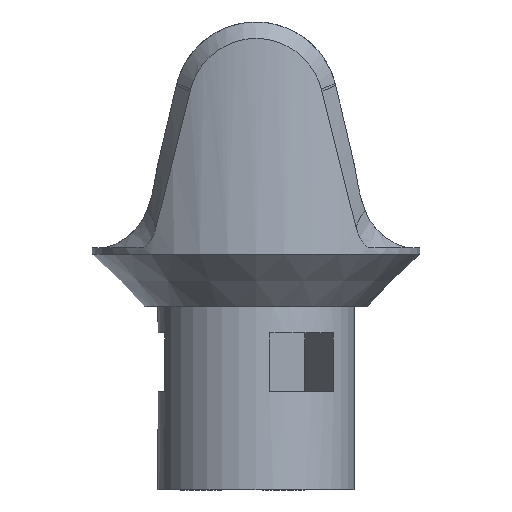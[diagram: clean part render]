
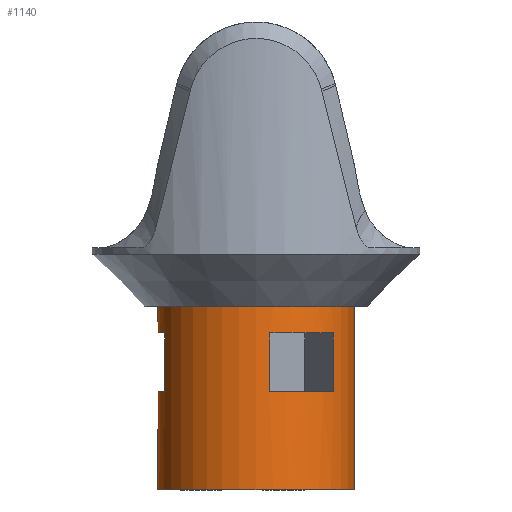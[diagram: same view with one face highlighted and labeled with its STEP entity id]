
A CAD part, front view. The second image highlights one B-rep face of the part: STEP entity #1140.
In plain terms, the highlighted cylindrical face has radius 7.5 mm (diameter 15 mm), a full revolution.
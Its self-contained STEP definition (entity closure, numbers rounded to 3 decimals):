
#77=LINE('',#1676,#163);
#78=LINE('',#1679,#164);
#79=LINE('',#1683,#165);
#80=LINE('',#1687,#166);
#81=LINE('',#1691,#167);
#82=LINE('',#1697,#168);
#83=LINE('',#1700,#169);
#163=VECTOR('',#1357,7.5);
#164=VECTOR('',#1358,10.);
#165=VECTOR('',#1361,10.);
#166=VECTOR('',#1364,10.);
#167=VECTOR('',#1367,10.);
#168=VECTOR('',#1372,10.);
#169=VECTOR('',#1375,10.);
#249=CYLINDRICAL_SURFACE('',#1229,7.5);
#270=FACE_BOUND('',#358,.T.);
#271=FACE_BOUND('',#359,.T.);
#272=FACE_BOUND('',#360,.T.);
#283=FACE_OUTER_BOUND('',#357,.T.);
#357=EDGE_LOOP('',(#765,#766,#767,#768));
#358=EDGE_LOOP('',(#769,#770,#771,#772));
#359=EDGE_LOOP('',(#773,#774,#775,#776));
#360=EDGE_LOOP('',(#777,#778,#779,#780));
#439=CIRCLE('',#1225,7.5);
#443=CIRCLE('',#1230,7.5);
#444=CIRCLE('',#1231,7.5);
#445=CIRCLE('',#1232,7.5);
#446=CIRCLE('',#1233,7.5);
#447=CIRCLE('',#1234,7.5);
#448=CIRCLE('',#1235,7.5);
#449=CIRCLE('',#1236,7.5);
#479=VERTEX_POINT('',#1665);
#483=VERTEX_POINT('',#1674);
#484=VERTEX_POINT('',#1677);
#485=VERTEX_POINT('',#1678);
#486=VERTEX_POINT('',#1680);
#487=VERTEX_POINT('',#1682);
#488=VERTEX_POINT('',#1685);
#489=VERTEX_POINT('',#1686);
#490=VERTEX_POINT('',#1688);
#491=VERTEX_POINT('',#1690);
#492=VERTEX_POINT('',#1693);
#493=VERTEX_POINT('',#1694);
#494=VERTEX_POINT('',#1696);
#495=VERTEX_POINT('',#1698);
#590=EDGE_CURVE('',#479,#479,#439,.T.);
#594=EDGE_CURVE('',#483,#483,#443,.T.);
#595=EDGE_CURVE('',#483,#479,#77,.T.);
#596=EDGE_CURVE('',#484,#485,#78,.T.);
#597=EDGE_CURVE('',#486,#484,#444,.T.);
#598=EDGE_CURVE('',#487,#486,#79,.T.);
#599=EDGE_CURVE('',#485,#487,#445,.T.);
#600=EDGE_CURVE('',#488,#489,#80,.T.);
#601=EDGE_CURVE('',#490,#488,#446,.T.);
#602=EDGE_CURVE('',#491,#490,#81,.T.);
#603=EDGE_CURVE('',#489,#491,#447,.T.);
#604=EDGE_CURVE('',#492,#493,#448,.T.);
#605=EDGE_CURVE('',#494,#492,#82,.T.);
#606=EDGE_CURVE('',#495,#494,#449,.T.);
#607=EDGE_CURVE('',#493,#495,#83,.T.);
#765=ORIENTED_EDGE('',*,*,#594,.T.);
#766=ORIENTED_EDGE('',*,*,#595,.T.);
#767=ORIENTED_EDGE('',*,*,#590,.F.);
#768=ORIENTED_EDGE('',*,*,#595,.F.);
#769=ORIENTED_EDGE('',*,*,#596,.F.);
#770=ORIENTED_EDGE('',*,*,#597,.F.);
#771=ORIENTED_EDGE('',*,*,#598,.F.);
#772=ORIENTED_EDGE('',*,*,#599,.F.);
#773=ORIENTED_EDGE('',*,*,#600,.F.);
#774=ORIENTED_EDGE('',*,*,#601,.F.);
#775=ORIENTED_EDGE('',*,*,#602,.F.);
#776=ORIENTED_EDGE('',*,*,#603,.F.);
#777=ORIENTED_EDGE('',*,*,#604,.F.);
#778=ORIENTED_EDGE('',*,*,#605,.F.);
#779=ORIENTED_EDGE('',*,*,#606,.F.);
#780=ORIENTED_EDGE('',*,*,#607,.F.);
#1140=ADVANCED_FACE('',(#283,#270,#271,#272),#249,.T.);
#1225=AXIS2_PLACEMENT_3D('',#1666,#1345,#1346);
#1229=AXIS2_PLACEMENT_3D('',#1673,#1353,#1354);
#1230=AXIS2_PLACEMENT_3D('',#1675,#1355,#1356);
#1231=AXIS2_PLACEMENT_3D('',#1681,#1359,#1360);
#1232=AXIS2_PLACEMENT_3D('',#1684,#1362,#1363);
#1233=AXIS2_PLACEMENT_3D('',#1689,#1365,#1366);
#1234=AXIS2_PLACEMENT_3D('',#1692,#1368,#1369);
#1235=AXIS2_PLACEMENT_3D('',#1695,#1370,#1371);
#1236=AXIS2_PLACEMENT_3D('',#1699,#1373,#1374);
#1345=DIRECTION('center_axis',(0.,0.,
-1.));
#1346=DIRECTION('ref_axis',(0.,-1.,0.));
#1353=DIRECTION('center_axis',(0.,0.,
1.));
#1354=DIRECTION('ref_axis',(0.,1.,0.));
#1355=DIRECTION('center_axis',(0.,0.,
-1.));
#1356=DIRECTION('ref_axis',(0.,1.,0.));
#1357=DIRECTION('',(0.,0.,-1.));
#1358=DIRECTION('',(0.,0.,1.));
#1359=DIRECTION('center_axis',(0.,0.,
1.));
#1360=DIRECTION('ref_axis',(0.,1.,0.));
#1361=DIRECTION('',(0.,0.,-1.));
#1362=DIRECTION('center_axis',(0.,0.,
-1.));
#1363=DIRECTION('ref_axis',(0.,1.,0.));
#1364=DIRECTION('',(0.,0.,1.));
#1365=DIRECTION('center_axis',(0.,0.,
1.));
#1366=DIRECTION('ref_axis',(0.,1.,0.));
#1367=DIRECTION('',(0.,0.,-1.));
#1368=DIRECTION('center_axis',(0.,0.,
-1.));
#1369=DIRECTION('ref_axis',(0.,1.,0.));
#1370=DIRECTION('center_axis',(0.,0.,
-1.));
#1371=DIRECTION('ref_axis',(0.,1.,0.));
#1372=DIRECTION('',(0.,0.,1.));
#1373=DIRECTION('center_axis',(0.,0.,
1.));
#1374=DIRECTION('ref_axis',(0.,1.,0.));
#1375=DIRECTION('',(0.,0.,-1.));
#1665=CARTESIAN_POINT('',(0.,-7.5,17.));
#1666=CARTESIAN_POINT('Origin',(0.,0.,
17.));
#1673=CARTESIAN_POINT('Origin',(0.,0.,
21.));
#1674=CARTESIAN_POINT('',(0.,-7.5,31.));
#1675=CARTESIAN_POINT('Origin',(0.,0.,
31.));
#1676=CARTESIAN_POINT('',(0.,-7.5,21.));
#1677=CARTESIAN_POINT('',(-6.958,-2.8,24.5));
#1678=CARTESIAN_POINT('',(-6.958,-2.8,29.));
#1679=CARTESIAN_POINT('',(-6.958,-2.8,21.));
#1680=CARTESIAN_POINT('',(-6.958,2.8,24.5));
#1681=CARTESIAN_POINT('Origin',(0.,0.,
24.5));
#1682=CARTESIAN_POINT('',(-6.958,2.8,29.));
#1683=CARTESIAN_POINT('',(-6.958,2.8,21.));
#1684=CARTESIAN_POINT('Origin',(0.,0.,
29.));
#1685=CARTESIAN_POINT('',(1.054,7.426,24.5));
#1686=CARTESIAN_POINT('',(1.054,7.426,29.));
#1687=CARTESIAN_POINT('',(1.054,7.426,21.));
#1688=CARTESIAN_POINT('',(5.904,4.626,24.5));
#1689=CARTESIAN_POINT('Origin',(0.,0.,
24.5));
#1690=CARTESIAN_POINT('',(5.904,4.626,29.));
#1691=CARTESIAN_POINT('',(5.904,4.626,21.));
#1692=CARTESIAN_POINT('Origin',(0.,0.,
29.));
#1693=CARTESIAN_POINT('',(5.904,-4.626,29.));
#1694=CARTESIAN_POINT('',(1.054,-7.426,29.));
#1695=CARTESIAN_POINT('Origin',(0.,0.,
29.));
#1696=CARTESIAN_POINT('',(5.904,-4.626,24.5));
#1697=CARTESIAN_POINT('',(5.904,-4.626,21.));
#1698=CARTESIAN_POINT('',(1.054,-7.426,24.5));
#1699=CARTESIAN_POINT('Origin',(0.,0.,
24.5));
#1700=CARTESIAN_POINT('',(1.054,-7.426,21.));
